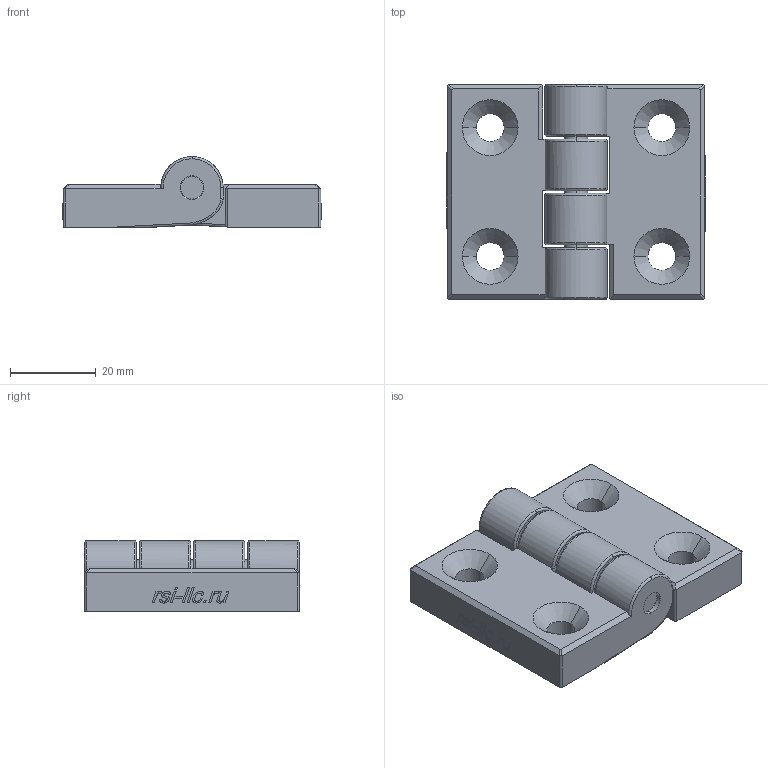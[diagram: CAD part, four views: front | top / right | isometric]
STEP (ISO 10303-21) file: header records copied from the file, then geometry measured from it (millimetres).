
FILE_DESCRIPTION (( 'STEP AP214' ), '1' );
FILE_NAME ('3014.STEP', '2020-10-12T12:56:56', ( '' ), ( '' ), 'SwSTEP 2.0', 'SolidWorks 2018', '' );
FILE_SCHEMA (( 'AUTOMOTIVE_DESIGN' ));
Length unit declared in the file: millimetre
Products named in the file (3): 3014; 3014-02; 3014-01
Assembly tree (3 placements, depth 2):
  3014
    3014-01  x2
    3014-02
Bounding box: 60.2 x 50 x 16.5 mm (x, y, z)
Volume: 29139 mm3; surface area: 12816.1 mm2
Topology: 3 solids, 3 shells, 332 faces, 864 edges, 564 vertices
Faces by surface type: plane 180, bspline 76, cylinder 50, torus 18, cone 8
Entity records: 8433 total; most frequent: CARTESIAN_POINT 3404, ORIENTED_EDGE 878, DIRECTION 670, EDGE_CURVE 439, VERTEX_POINT 286, LINE 282, VECTOR 282, AXIS2_PLACEMENT_3D 194
